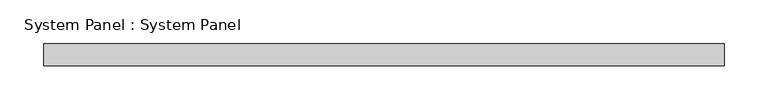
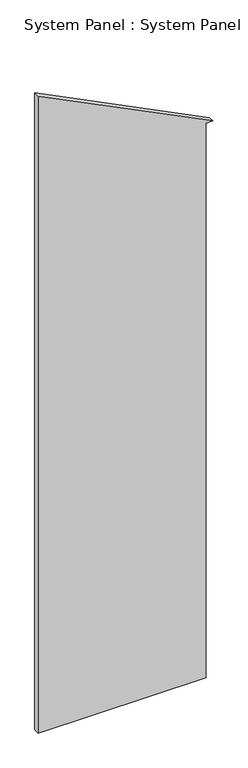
"""IFC4 building model written with IfcOpenShell, lengths in millimetres: plate geometry, System Panel : System Panel."""

from ifc_helpers import new_model, si_unit, frame, origin, place, context, project, spatial, polyline, outline, extrude, source, transform, mapped, element, save


def system_panel_system_panel_2f6c06c2(model_context):
    return source(origin(), model_context, "Body", "SweptSolid", [
        extrude(outline(polyline([(0.0, 358.775), (2616.2, 358.775), (2616.2, 390.525), (3006.725, -390.525), (0.0, -390.525), (0.0, 358.775)])), frame((0.0, 19.05, 0.0), z_axis=(0.0, 1.0, 0.0), x_axis=(0.0, 0.0, 1.0)), (0.0, 0.0, 1.0), 25.4),
    ])


if __name__ == "__main__":
    model = new_model("IFC4")
    model_context = context("Model", 3, world=origin())
    ifc_project = project(units=[si_unit("LENGTHUNIT", "METRE", prefix="MILLI")], contexts=[model_context])
    site = spatial("IfcSite", under=ifc_project)
    building = spatial("IfcBuilding", under=site)
    placement = place(None, origin())
    system_panel_system_panel_shape = system_panel_system_panel_2f6c06c2(model_context)
    element("IfcPlate", 1, ObjectType="System Panel : System Panel", at=placement, inside=building, context=model_context, shape_type="MappedRepresentation", body=[
        mapped(system_panel_system_panel_shape, transform((0.0, 0.0, 0.0), x_axis=(1.0, 0.0, 0.0), y_axis=(0.0, 1.0, 0.0), z_axis=(0.0, 0.0, 1.0))),
    ])
    save(model, "model.ifc")
